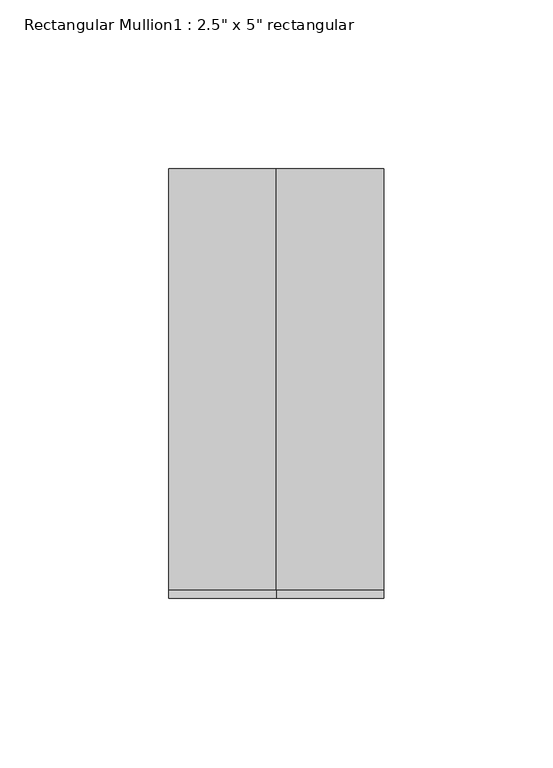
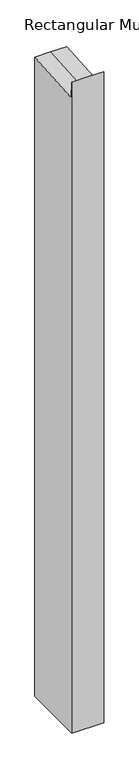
"""IFC4 building model written with IfcOpenShell, lengths in millimetres: member geometry."""

from ifc_helpers import new_model, si_unit, origin, place, context, project, spatial, faceted_brep, source, transform, mapped, element, save


def member_23db0025(model_context):
    return source(origin(), model_context, "Body", "Brep", [
        faceted_brep([(31.75, 63.5, -1339.4207165), (31.75, -63.5, -1339.4207165), (-31.75, -63.5, -1339.4207165), (-31.75, 63.5, -1339.4207165), (-31.75, 63.5, 4.6293267), (0.0, 63.5, 4.6293267), (31.75, 63.5, 4.6293267), (-31.75, -63.5, 29.3948455), (-31.75, -60.9736199, -4.616608), (31.75, -63.5, 29.3948455), (0.0, -63.5, 29.3948455), (31.75, -60.9736199, -4.616608), (0.0, -60.9736199, -4.616608)], [[[0, 1, 2, 3]], [[4, 5, 6, 0, 3]], [[7, 8, 4, 3, 2]], [[9, 10, 7, 2, 1]], [[6, 11, 9, 1, 0]], [[6, 5, 12, 11]], [[5, 4, 8, 12]], [[8, 7, 10, 12]], [[10, 9, 11, 12]]]),
    ])


if __name__ == "__main__":
    model = new_model("IFC4")
    model_context = context("Model", 3, world=origin())
    ifc_project = project(units=[si_unit("LENGTHUNIT", "METRE", prefix="MILLI")], contexts=[model_context])
    site = spatial("IfcSite", under=ifc_project)
    building = spatial("IfcBuilding", under=site)
    placement = place(None, origin())
    member_shape = member_23db0025(model_context)
    element("IfcMember", 1, ObjectType="Rectangular Mullion1 : 2.5\" x 5\" rectangular", at=placement, inside=building, context=model_context, shape_type="MappedRepresentation", body=[
        mapped(member_shape, transform((0.0, 0.0, 0.0), x_axis=(1.0, 0.0, 0.0), y_axis=(0.0, 1.0, 0.0), z_axis=(0.0, 0.0, 1.0))),
    ])
    save(model, "model.ifc")
